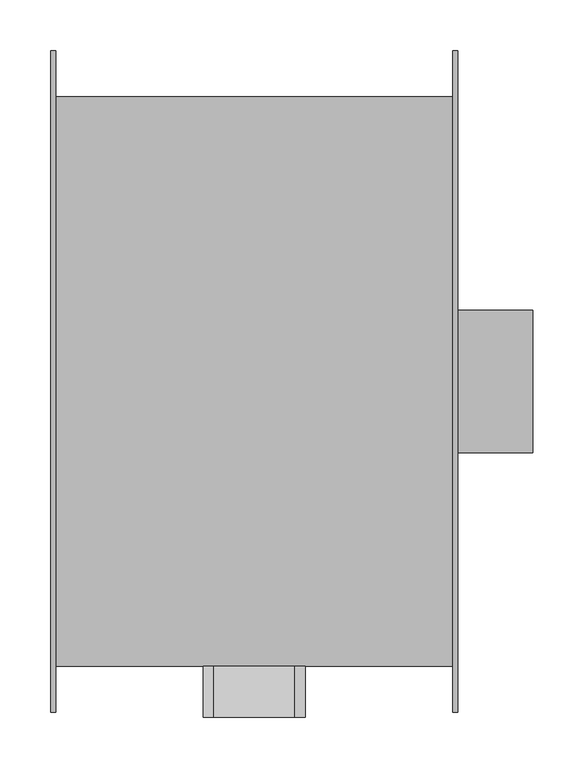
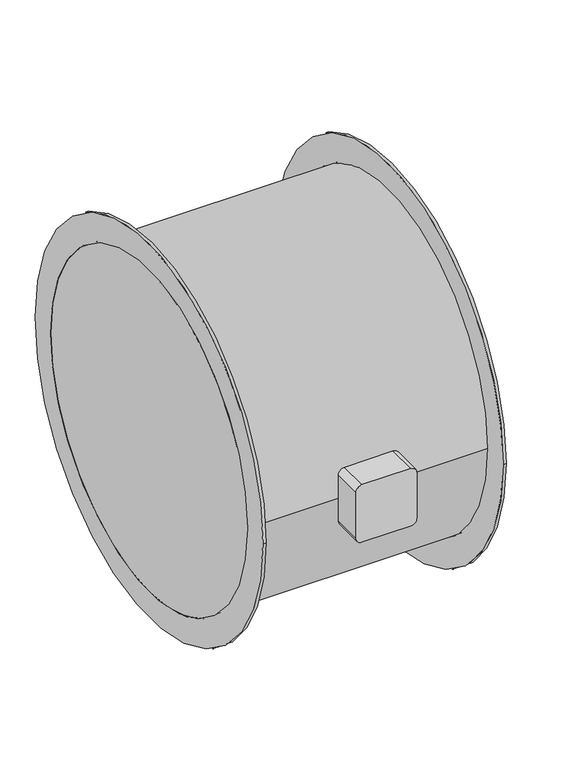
"""IFC4 building model written with IfcOpenShell, lengths in millimetres: unitary equipment geometry, VE-Wentylator-ParaForma-Harmann-AXER-Nawiewny : 560/4/12000T."""

import ifcopenshell
import ifcopenshell.guid

model = None  # the IFC model being written
_history = None  # IfcOwnerHistory: only IFC2X3 demands one
_inside = {}  # id of a spatial element -> (the spatial element, [elements in it])
_under = {}  # id of a project, library or spatial element -> (it, [spatial elements below it])
_declared = {}  # id of a project -> (the project, [libraries it declares])
_typed = {}  # id of a type object -> (the type object, [elements of that type])
_made_of = {}  # id of a material, layer set ... -> (it, [elements and type objects made of it])


def new_model(schema):
    """Start an empty IFC model of exactly this schema.

    Asked for "IFC4X3", IfcOpenShell would pick the latest addendum, in which some entities
    have other attributes; the version numbers below select the first issue.
    IFC2X3 requires an IfcOwnerHistory on every rooted entity: one is made here for all.
    """
    global model, _history
    if schema == "IFC4X3":
        model = ifcopenshell.file(schema_version=(4, 3, 0, 0))
    else:
        model = ifcopenshell.file(schema=schema)
    _inside.clear()
    _under.clear()
    _declared.clear()
    _typed.clear()
    _made_of.clear()
    _history = None
    if model.schema == "IFC2X3":
        org = make("IfcOrganization", Name="unknown")
        user = make(
            "IfcPersonAndOrganization",
            ThePerson=make("IfcPerson", FamilyName="unknown"),
            TheOrganization=org,
        )
        app = make(
            "IfcApplication",
            ApplicationDeveloper=org,
            Version="unknown",
            ApplicationFullName="unknown",
            ApplicationIdentifier="unknown",
        )
        _history = make(
            "IfcOwnerHistory",
            OwningUser=user,
            OwningApplication=app,
            ChangeAction="ADDED",
            CreationDate=0,
        )
    return model


def make(cls, **values):
    """One entity of the class cls with the attributes given. An attribute that is None is left unset."""
    return model.create_entity(
        cls, **{name: value for name, value in values.items() if value is not None}
    )


def rooted(cls, **values):
    """An entity with a GlobalId (a new one), such as an element, a storey or a relation."""
    return make(cls, GlobalId=ifcopenshell.guid.new(), OwnerHistory=_history, **values)


def si_unit(unit_type, name, prefix=None):
    """IfcSIUnit, for example si_unit("LENGTHUNIT", "METRE", prefix="MILLI")."""
    return make("IfcSIUnit", UnitType=unit_type, Prefix=prefix, Name=name)


def assignment(units):
    """IfcUnitAssignment: the units of a project."""
    return None if units is None else make("IfcUnitAssignment", Units=units)


def point(xyz):
    """IfcCartesianPoint."""
    return None if xyz is None else make("IfcCartesianPoint", Coordinates=xyz)


def direction(xyz):
    """IfcDirection."""
    return None if xyz is None else make("IfcDirection", DirectionRatios=xyz)


def frame(location, z_axis=None, x_axis=None):
    """IfcAxis2Placement3D, a coordinate frame: its origin and axes. An axis left out is left unset."""
    return make(
        "IfcAxis2Placement3D",
        Location=point(location),
        Axis=direction(z_axis),
        RefDirection=direction(x_axis),
    )


def frame_2d(location, x_axis=None):
    """IfcAxis2Placement2D, a coordinate frame in the plane: its origin and x axis."""
    return make(
        "IfcAxis2Placement2D", Location=point(location), RefDirection=direction(x_axis)
    )


def origin():
    """The frame at (0, 0, 0) with its axes left unset."""
    return frame((0.0, 0.0, 0.0))


def origin_2d():
    """The frame at (0, 0) in the plane with its x axis left unset."""
    return frame_2d((0.0, 0.0))


def place(relative_to, where):
    """IfcLocalPlacement: puts the frame where relative to a parent placement (None: the world)."""
    return make(
        "IfcLocalPlacement", PlacementRelTo=relative_to, RelativePlacement=where
    )


def context(
    kind, dimensions, precision=None, world=None, true_north=None, identifier=None
):
    """IfcGeometricRepresentationContext, for example the 3D "Model" context."""
    return make(
        "IfcGeometricRepresentationContext",
        ContextIdentifier=identifier,
        ContextType=kind,
        CoordinateSpaceDimension=dimensions,
        Precision=precision,
        WorldCoordinateSystem=world,
        TrueNorth=true_north,
    )


def project(units=None, contexts=None):
    """IfcProject with its units and contexts."""
    return rooted(
        "IfcProject",
        Name="project",
        RepresentationContexts=contexts,
        UnitsInContext=assignment(units),
    )


def spatial(cls, under=None, at=None, **own):
    """A site, building, storey or space (cls), placed at a placement, below another one or the project."""
    s = rooted(cls, ObjectPlacement=at, **own)
    if under is not None:
        _under.setdefault(under.id(), (under, []))[1].append(s)
    return s


def polyline(points):
    """IfcPolyline through the points."""
    return make("IfcPolyline", Points=[point(p) for p in points])


def circle_curve(where, radius):
    """IfcCircle in the frame where."""
    return make("IfcCircle", Position=where, Radius=radius)


def trimmed(basis, trim1, trim2, sense, master):
    """IfcTrimmedCurve: the piece of a basis curve between two trims."""
    return make(
        "IfcTrimmedCurve",
        BasisCurve=basis,
        Trim1=trim1,
        Trim2=trim2,
        SenseAgreement=sense,
        MasterRepresentation=master,
    )


def segment(curve, same_sense, transition):
    """IfcCompositeCurveSegment."""
    return make(
        "IfcCompositeCurveSegment",
        Transition=transition,
        SameSense=same_sense,
        ParentCurve=curve,
    )


def composite_curve(segments, self_intersect=None):
    """IfcCompositeCurve: segments joined end to end."""
    return make("IfcCompositeCurve", Segments=segments, SelfIntersect=self_intersect)


def outline(outer, holes=None, kind="AREA"):
    """IfcArbitraryClosedProfileDef: a profile drawn as a closed curve; with holes, ...WithVoids."""
    if holes is None:
        return make("IfcArbitraryClosedProfileDef", ProfileType=kind, OuterCurve=outer)
    return make(
        "IfcArbitraryProfileDefWithVoids",
        ProfileType=kind,
        OuterCurve=outer,
        InnerCurves=holes,
    )


def extrude(swept, where, along, depth):
    """IfcExtrudedAreaSolid: the profile swept, set in the frame where, extruded along a direction by depth."""
    return make(
        "IfcExtrudedAreaSolid",
        SweptArea=swept,
        Position=where,
        ExtrudedDirection=direction(along),
        Depth=depth,
    )


def shape(context_of_items, identifier, shape_type, items):
    """IfcShapeRepresentation: the items that make up one representation, for example the "Body"."""
    return make(
        "IfcShapeRepresentation",
        ContextOfItems=context_of_items,
        RepresentationIdentifier=identifier,
        RepresentationType=shape_type,
        Items=items,
    )


def source(mapping_origin, context_of_items, identifier, shape_type, items):
    """IfcRepresentationMap: a shape defined once, which mapped items show again and again."""
    return make(
        "IfcRepresentationMap",
        MappingOrigin=mapping_origin,
        MappedRepresentation=shape(context_of_items, identifier, shape_type, items),
    )


def transform(
    local_origin,
    x_axis=None,
    y_axis=None,
    z_axis=None,
    scale=None,
    scale2=None,
    scale3=None,
    uniform=True,
):
    """IfcCartesianTransformationOperator3D, or its non-uniform kind. x_axis, y_axis, z_axis: its Axis1, 2, 3."""
    if uniform:
        return make(
            "IfcCartesianTransformationOperator3D",
            Axis1=direction(x_axis),
            Axis2=direction(y_axis),
            LocalOrigin=point(local_origin),
            Scale=scale,
            Axis3=direction(z_axis),
        )
    return make(
        "IfcCartesianTransformationOperator3DnonUniform",
        Axis1=direction(x_axis),
        Axis2=direction(y_axis),
        LocalOrigin=point(local_origin),
        Scale=scale,
        Axis3=direction(z_axis),
        Scale2=scale2,
        Scale3=scale3,
    )


def mapped(mapping_source, mapping_target):
    """IfcMappedItem: shows the shape of a source again, moved by a transform."""
    return make(
        "IfcMappedItem", MappingSource=mapping_source, MappingTarget=mapping_target
    )


def made_of(thing, what):
    """Note that an element or type object is made of a material, layer set ...; save() writes the relation."""
    if what is not None:
        _made_of.setdefault(what.id(), (what, []))[1].append(thing)
    return thing


def element(
    cls,
    number,
    at=None,
    inside=None,
    cuts=None,
    type_object=None,
    material=None,
    context=None,
    identifier="Body",
    shape_type=None,
    held_by="IfcProductDefinitionShape",
    body=None,
    shapes=None,
    **own,
):
    """One element of the class cls, such as IfcWall. Its Tag is "e" and its number.

    at: its placement. inside: the storey or other place that contains it. cuts: it is an
    opening in that element (IfcRelVoidsElement). A single representation is given by context,
    identifier, shape_type and body (its items); several are given by shapes. held_by: the class
    of the entity that holds the representations. save() writes the other relations.
    """
    e = rooted(cls, Tag="e%d" % number, ObjectPlacement=at, **own)
    if body is not None:
        shapes = [shape(context, identifier, shape_type, body)]
    if shapes is not None:
        e.Representation = make(held_by, Representations=shapes)
    if inside is not None:
        _inside.setdefault(inside.id(), (inside, []))[1].append(e)
    if cuts is not None:
        rooted(
            "IfcRelVoidsElement", RelatingBuildingElement=cuts, RelatedOpeningElement=e
        )
    if type_object is not None:
        _typed.setdefault(type_object.id(), (type_object, []))[1].append(e)
    return made_of(e, material)


def aggregate(whole, parts):
    """IfcRelAggregates: a whole, such as a stair, and the parts it consists of."""
    return rooted("IfcRelAggregates", RelatingObject=whole, RelatedObjects=parts)


def save(model, path):
    """Write the relations noted so far, then the file.

    IfcRelAggregates (storeys below a building ...), IfcRelContainedInSpatialStructure (elements
    in a storey), IfcRelDefinesByType, IfcRelAssociatesMaterial and IfcRelDeclares: one each for
    every whole, place, type object, material and project.
    """
    for whole, parts in _under.values():
        aggregate(whole, parts)
    for where, things in _inside.values():
        rooted(
            "IfcRelContainedInSpatialStructure",
            RelatedElements=things,
            RelatingStructure=where,
        )
    for kind, things in _typed.values():
        rooted("IfcRelDefinesByType", RelatedObjects=things, RelatingType=kind)
    for what, things in _made_of.values():
        rooted("IfcRelAssociatesMaterial", RelatedObjects=things, RelatingMaterial=what)
    for by, libraries in _declared.values():
        rooted("IfcRelDeclares", RelatingContext=by, RelatedDefinitions=libraries)
    model.write(path)


def unitary_equipment_65188c4b(model_context):
    return source(origin(), model_context, "Body", "SweptSolid", [
        extrude(outline(composite_curve([segment(trimmed(circle_curve(origin_2d(), 70.0), [point((-70.0, 0.0))], [point((70.0, 0.0))], False, "CARTESIAN"), True, "CONTINUOUS"), segment(trimmed(circle_curve(origin_2d(), 70.0), [point((70.0, 0.0))], [point((-70.0, 0.0))], False, "CARTESIAN"), True, "CONTINUOUS")], self_intersect=False)), frame((200.0, 0.0, 0.0), z_axis=(1.0, 0.0, 0.0), x_axis=(0.0, 1.0, 0.0)), (0.0, 0.0, 1.0), 74.0),
        extrude(outline(composite_curve([segment(trimmed(circle_curve(frame_2d((-40.0, 40.0)), 10.0), [point((-50.0, 40.0))], [point((-40.0, 50.0))], False, "CARTESIAN"), True, "CONTINUOUS"), segment(polyline([(-40.0, 50.0), (40.0, 50.0)]), True, "CONTINUOUS"), segment(trimmed(circle_curve(frame_2d((40.0, 40.0)), 10.0), [point((40.0, 50.0))], [point((50.0, 40.0))], False, "CARTESIAN"), True, "CONTINUOUS"), segment(polyline([(50.0, 40.0), (50.0, -40.0)]), True, "CONTINUOUS"), segment(trimmed(circle_curve(frame_2d((40.0, -40.0)), 10.0), [point((50.0, -40.0))], [point((40.0, -50.0))], False, "CARTESIAN"), True, "CONTINUOUS"), segment(polyline([(40.0, -50.0), (-40.0, -50.0)]), True, "CONTINUOUS"), segment(trimmed(circle_curve(frame_2d((-40.0, -40.0)), 10.0), [point((-40.0, -50.0))], [point((-50.0, -40.0))], False, "CARTESIAN"), True, "CONTINUOUS"), segment(polyline([(-50.0, -40.0), (-50.0, 40.0)]), True, "CONTINUOUS")], self_intersect=False)), frame((0.0, -330.0, 0.0), z_axis=(0.0, 1.0, 0.0), x_axis=(0.0, 0.0, 1.0)), (0.0, 0.0, 1.0), 50.0),
        extrude(outline(composite_curve([segment(trimmed(circle_curve(origin_2d(), 325.0), [point((-325.0, 0.0))], [point((325.0, 0.0))], False, "CARTESIAN"), True, "CONTINUOUS"), segment(trimmed(circle_curve(origin_2d(), 325.0), [point((325.0, 0.0))], [point((-325.0, 0.0))], False, "CARTESIAN"), True, "CONTINUOUS")], self_intersect=False), holes=[composite_curve([segment(trimmed(circle_curve(origin_2d(), 280.0), [point((-280.0, 0.0))], [point((280.0, 0.0))], True, "CARTESIAN"), True, "CONTINUOUS"), segment(trimmed(circle_curve(origin_2d(), 280.0), [point((280.0, 0.0))], [point((-280.0, 0.0))], True, "CARTESIAN"), True, "CONTINUOUS")], self_intersect=False)]), frame((195.0, 0.0, 0.0), z_axis=(1.0, 0.0, 0.0), x_axis=(0.0, 1.0, 0.0)), (0.0, 0.0, 1.0), 5.0),
        extrude(outline(composite_curve([segment(trimmed(circle_curve(origin_2d(), 325.0), [point((-325.0, 0.0))], [point((325.0, 0.0))], False, "CARTESIAN"), True, "CONTINUOUS"), segment(trimmed(circle_curve(origin_2d(), 325.0), [point((325.0, 0.0))], [point((-325.0, 0.0))], False, "CARTESIAN"), True, "CONTINUOUS")], self_intersect=False), holes=[composite_curve([segment(trimmed(circle_curve(origin_2d(), 280.0), [point((-280.0, 0.0))], [point((280.0, 0.0))], True, "CARTESIAN"), True, "CONTINUOUS"), segment(trimmed(circle_curve(origin_2d(), 280.0), [point((280.0, 0.0))], [point((-280.0, 0.0))], True, "CARTESIAN"), True, "CONTINUOUS")], self_intersect=False)]), frame((-200.0, 0.0, 0.0), z_axis=(1.0, 0.0, 0.0), x_axis=(0.0, 1.0, 0.0)), (0.0, 0.0, 1.0), 5.0),
        extrude(outline(composite_curve([segment(trimmed(circle_curve(origin_2d(), 280.0), [point((-280.0, 0.0))], [point((280.0, 0.0))], False, "CARTESIAN"), True, "CONTINUOUS"), segment(trimmed(circle_curve(origin_2d(), 280.0), [point((280.0, 0.0))], [point((-280.0, 0.0))], False, "CARTESIAN"), True, "CONTINUOUS")], self_intersect=False)), frame((-200.0, 0.0, 0.0), z_axis=(1.0, 0.0, 0.0), x_axis=(0.0, 1.0, 0.0)), (0.0, 0.0, 1.0), 400.0),
    ])


if __name__ == "__main__":
    model = new_model("IFC4")
    model_context = context("Model", 3, world=origin())
    ifc_project = project(units=[si_unit("LENGTHUNIT", "METRE", prefix="MILLI")], contexts=[model_context])
    site = spatial("IfcSite", under=ifc_project)
    building = spatial("IfcBuilding", under=site)
    placement = place(None, origin())
    unitary_equipment_shape = unitary_equipment_65188c4b(model_context)
    element("IfcUnitaryEquipment", 1, ObjectType="VE-Wentylator-ParaForma-Harmann-AXER-Nawiewny : 560/4/12000T", at=placement, inside=building, context=model_context, shape_type="MappedRepresentation", body=[
        mapped(unitary_equipment_shape, transform((0.0, 0.0, 0.0), x_axis=(1.0, 0.0, 0.0), y_axis=(0.0, 1.0, 0.0), z_axis=(0.0, 0.0, 1.0))),
    ])
    save(model, "model.ifc")
